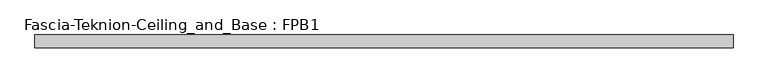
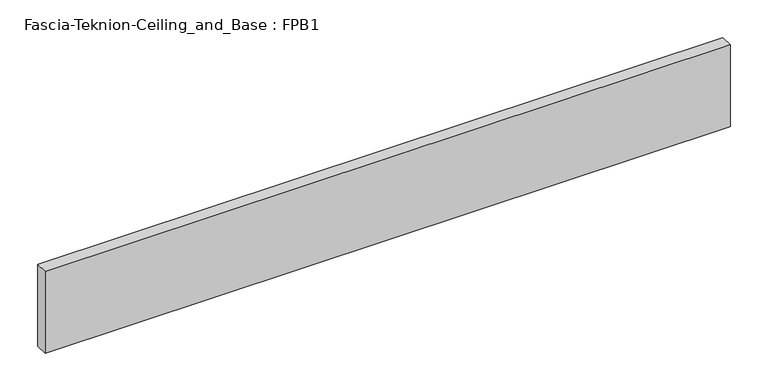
"""IFC4 building model written with IfcOpenShell, lengths in millimetres: proxy geometry, Fascia-Teknion-Ceiling_and_Base : FPB1."""

import ifcopenshell
import ifcopenshell.guid

model = None  # the IFC model being written
_history = None  # IfcOwnerHistory: only IFC2X3 demands one
_inside = {}  # id of a spatial element -> (the spatial element, [elements in it])
_under = {}  # id of a project, library or spatial element -> (it, [spatial elements below it])
_declared = {}  # id of a project -> (the project, [libraries it declares])
_typed = {}  # id of a type object -> (the type object, [elements of that type])
_made_of = {}  # id of a material, layer set ... -> (it, [elements and type objects made of it])


def new_model(schema):
    """Start an empty IFC model of exactly this schema.

    Asked for "IFC4X3", IfcOpenShell would pick the latest addendum, in which some entities
    have other attributes; the version numbers below select the first issue.
    IFC2X3 requires an IfcOwnerHistory on every rooted entity: one is made here for all.
    """
    global model, _history
    if schema == "IFC4X3":
        model = ifcopenshell.file(schema_version=(4, 3, 0, 0))
    else:
        model = ifcopenshell.file(schema=schema)
    _inside.clear()
    _under.clear()
    _declared.clear()
    _typed.clear()
    _made_of.clear()
    _history = None
    if model.schema == "IFC2X3":
        org = make("IfcOrganization", Name="unknown")
        user = make(
            "IfcPersonAndOrganization",
            ThePerson=make("IfcPerson", FamilyName="unknown"),
            TheOrganization=org,
        )
        app = make(
            "IfcApplication",
            ApplicationDeveloper=org,
            Version="unknown",
            ApplicationFullName="unknown",
            ApplicationIdentifier="unknown",
        )
        _history = make(
            "IfcOwnerHistory",
            OwningUser=user,
            OwningApplication=app,
            ChangeAction="ADDED",
            CreationDate=0,
        )
    return model


def make(cls, **values):
    """One entity of the class cls with the attributes given. An attribute that is None is left unset."""
    return model.create_entity(
        cls, **{name: value for name, value in values.items() if value is not None}
    )


def rooted(cls, **values):
    """An entity with a GlobalId (a new one), such as an element, a storey or a relation."""
    return make(cls, GlobalId=ifcopenshell.guid.new(), OwnerHistory=_history, **values)


def si_unit(unit_type, name, prefix=None):
    """IfcSIUnit, for example si_unit("LENGTHUNIT", "METRE", prefix="MILLI")."""
    return make("IfcSIUnit", UnitType=unit_type, Prefix=prefix, Name=name)


def assignment(units):
    """IfcUnitAssignment: the units of a project."""
    return None if units is None else make("IfcUnitAssignment", Units=units)


def point(xyz):
    """IfcCartesianPoint."""
    return None if xyz is None else make("IfcCartesianPoint", Coordinates=xyz)


def direction(xyz):
    """IfcDirection."""
    return None if xyz is None else make("IfcDirection", DirectionRatios=xyz)


def frame(location, z_axis=None, x_axis=None):
    """IfcAxis2Placement3D, a coordinate frame: its origin and axes. An axis left out is left unset."""
    return make(
        "IfcAxis2Placement3D",
        Location=point(location),
        Axis=direction(z_axis),
        RefDirection=direction(x_axis),
    )


def origin():
    """The frame at (0, 0, 0) with its axes left unset."""
    return frame((0.0, 0.0, 0.0))


def origin_with_axes():
    """The frame at (0, 0, 0) with the z axis (0, 0, 1) and the x axis (1, 0, 0) written out."""
    return frame((0.0, 0.0, 0.0), z_axis=(0.0, 0.0, 1.0), x_axis=(1.0, 0.0, 0.0))


def place(relative_to, where):
    """IfcLocalPlacement: puts the frame where relative to a parent placement (None: the world)."""
    return make(
        "IfcLocalPlacement", PlacementRelTo=relative_to, RelativePlacement=where
    )


def context(
    kind, dimensions, precision=None, world=None, true_north=None, identifier=None
):
    """IfcGeometricRepresentationContext, for example the 3D "Model" context."""
    return make(
        "IfcGeometricRepresentationContext",
        ContextIdentifier=identifier,
        ContextType=kind,
        CoordinateSpaceDimension=dimensions,
        Precision=precision,
        WorldCoordinateSystem=world,
        TrueNorth=true_north,
    )


def project(units=None, contexts=None):
    """IfcProject with its units and contexts."""
    return rooted(
        "IfcProject",
        Name="project",
        RepresentationContexts=contexts,
        UnitsInContext=assignment(units),
    )


def spatial(cls, under=None, at=None, **own):
    """A site, building, storey or space (cls), placed at a placement, below another one or the project."""
    s = rooted(cls, ObjectPlacement=at, **own)
    if under is not None:
        _under.setdefault(under.id(), (under, []))[1].append(s)
    return s


def polyline(points):
    """IfcPolyline through the points."""
    return make("IfcPolyline", Points=[point(p) for p in points])


def outline(outer, holes=None, kind="AREA"):
    """IfcArbitraryClosedProfileDef: a profile drawn as a closed curve; with holes, ...WithVoids."""
    if holes is None:
        return make("IfcArbitraryClosedProfileDef", ProfileType=kind, OuterCurve=outer)
    return make(
        "IfcArbitraryProfileDefWithVoids",
        ProfileType=kind,
        OuterCurve=outer,
        InnerCurves=holes,
    )


def extrude(swept, where, along, depth):
    """IfcExtrudedAreaSolid: the profile swept, set in the frame where, extruded along a direction by depth."""
    return make(
        "IfcExtrudedAreaSolid",
        SweptArea=swept,
        Position=where,
        ExtrudedDirection=direction(along),
        Depth=depth,
    )


def shape(context_of_items, identifier, shape_type, items):
    """IfcShapeRepresentation: the items that make up one representation, for example the "Body"."""
    return make(
        "IfcShapeRepresentation",
        ContextOfItems=context_of_items,
        RepresentationIdentifier=identifier,
        RepresentationType=shape_type,
        Items=items,
    )


def source(mapping_origin, context_of_items, identifier, shape_type, items):
    """IfcRepresentationMap: a shape defined once, which mapped items show again and again."""
    return make(
        "IfcRepresentationMap",
        MappingOrigin=mapping_origin,
        MappedRepresentation=shape(context_of_items, identifier, shape_type, items),
    )


def transform(
    local_origin,
    x_axis=None,
    y_axis=None,
    z_axis=None,
    scale=None,
    scale2=None,
    scale3=None,
    uniform=True,
):
    """IfcCartesianTransformationOperator3D, or its non-uniform kind. x_axis, y_axis, z_axis: its Axis1, 2, 3."""
    if uniform:
        return make(
            "IfcCartesianTransformationOperator3D",
            Axis1=direction(x_axis),
            Axis2=direction(y_axis),
            LocalOrigin=point(local_origin),
            Scale=scale,
            Axis3=direction(z_axis),
        )
    return make(
        "IfcCartesianTransformationOperator3DnonUniform",
        Axis1=direction(x_axis),
        Axis2=direction(y_axis),
        LocalOrigin=point(local_origin),
        Scale=scale,
        Axis3=direction(z_axis),
        Scale2=scale2,
        Scale3=scale3,
    )


def mapped(mapping_source, mapping_target):
    """IfcMappedItem: shows the shape of a source again, moved by a transform."""
    return make(
        "IfcMappedItem", MappingSource=mapping_source, MappingTarget=mapping_target
    )


def made_of(thing, what):
    """Note that an element or type object is made of a material, layer set ...; save() writes the relation."""
    if what is not None:
        _made_of.setdefault(what.id(), (what, []))[1].append(thing)
    return thing


def element(
    cls,
    number,
    at=None,
    inside=None,
    cuts=None,
    type_object=None,
    material=None,
    context=None,
    identifier="Body",
    shape_type=None,
    held_by="IfcProductDefinitionShape",
    body=None,
    shapes=None,
    **own,
):
    """One element of the class cls, such as IfcWall. Its Tag is "e" and its number.

    at: its placement. inside: the storey or other place that contains it. cuts: it is an
    opening in that element (IfcRelVoidsElement). A single representation is given by context,
    identifier, shape_type and body (its items); several are given by shapes. held_by: the class
    of the entity that holds the representations. save() writes the other relations.
    """
    e = rooted(cls, Tag="e%d" % number, ObjectPlacement=at, **own)
    if body is not None:
        shapes = [shape(context, identifier, shape_type, body)]
    if shapes is not None:
        e.Representation = make(held_by, Representations=shapes)
    if inside is not None:
        _inside.setdefault(inside.id(), (inside, []))[1].append(e)
    if cuts is not None:
        rooted(
            "IfcRelVoidsElement", RelatingBuildingElement=cuts, RelatedOpeningElement=e
        )
    if type_object is not None:
        _typed.setdefault(type_object.id(), (type_object, []))[1].append(e)
    return made_of(e, material)


def aggregate(whole, parts):
    """IfcRelAggregates: a whole, such as a stair, and the parts it consists of."""
    return rooted("IfcRelAggregates", RelatingObject=whole, RelatedObjects=parts)


def save(model, path):
    """Write the relations noted so far, then the file.

    IfcRelAggregates (storeys below a building ...), IfcRelContainedInSpatialStructure (elements
    in a storey), IfcRelDefinesByType, IfcRelAssociatesMaterial and IfcRelDeclares: one each for
    every whole, place, type object, material and project.
    """
    for whole, parts in _under.values():
        aggregate(whole, parts)
    for where, things in _inside.values():
        rooted(
            "IfcRelContainedInSpatialStructure",
            RelatedElements=things,
            RelatingStructure=where,
        )
    for kind, things in _typed.values():
        rooted("IfcRelDefinesByType", RelatedObjects=things, RelatingType=kind)
    for what, things in _made_of.values():
        rooted("IfcRelAssociatesMaterial", RelatedObjects=things, RelatingMaterial=what)
    for by, libraries in _declared.values():
        rooted("IfcRelDeclares", RelatingContext=by, RelatedDefinitions=libraries)
    model.write(path)


def fascia_teknion_ceiling_and_base_fpb1_dc8595db(model_context):
    return source(origin(), model_context, "Body", "SweptSolid", [
        extrude(outline(polyline([(523.2300781, 0.0), (523.2300781, -19.05), (-523.2300781, -19.05), (-523.2300781, 0.0), (523.2300781, 0.0)])), origin_with_axes(), (0.0, 0.0, 1.0), 132.08),
    ])


if __name__ == "__main__":
    model = new_model("IFC4")
    model_context = context("Model", 3, world=origin())
    ifc_project = project(units=[si_unit("LENGTHUNIT", "METRE", prefix="MILLI")], contexts=[model_context])
    site = spatial("IfcSite", under=ifc_project)
    building = spatial("IfcBuilding", under=site)
    placement = place(None, origin())
    fascia_teknion_ceiling_and_base_fpb1_shape = fascia_teknion_ceiling_and_base_fpb1_dc8595db(model_context)
    element("IfcBuildingElementProxy", 1, Name="Fascia-Teknion-Ceiling_and_Base : FPB1", ObjectType="Fascia-Teknion-Ceiling_and_Base : FPB1", at=placement, inside=building, context=model_context, shape_type="MappedRepresentation", body=[
        mapped(fascia_teknion_ceiling_and_base_fpb1_shape, transform((0.0, 0.0, 0.0), x_axis=(1.0, 0.0, 0.0), y_axis=(0.0, 1.0, 0.0), z_axis=(0.0, 0.0, 1.0))),
    ])
    save(model, "model.ifc")
